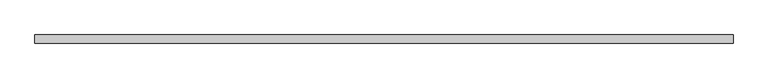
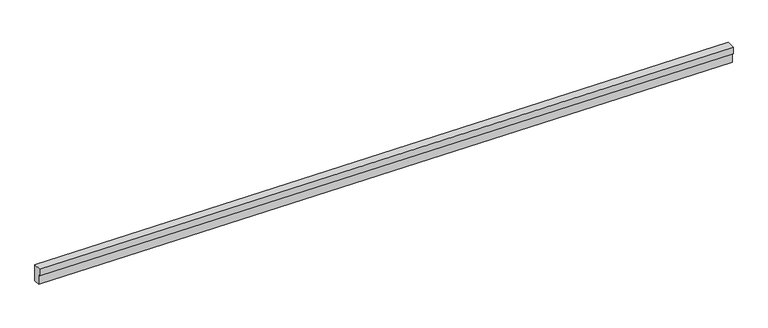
"""IFC4 building model written with IfcOpenShell, lengths in millimetres: proxy geometry, contre-corniche aval : contre-corniche."""

from ifc_helpers import new_model, si_unit, origin, place, context, project, spatial, faceted_brep, source, transform, mapped, element, save


def generic_models_ee808e85(model_context):
    return source(origin(), model_context, "Body", "Brep", [
        faceted_brep([(-6850.0, 2900.0, 5213.5), (-6850.0, 2900.0, 4873.5), (-6850.0, 2770.0, 4876.75), (-6850.0, 2770.0, 5104.5), (-6850.0, 2740.0, 5074.5), (-6850.0, 2740.0, 5207.5), (6850.0, 2900.0, 5060.5), (6850.0, 2740.0, 5054.5), (6850.0, 2740.0, 4921.5), (6850.0, 2770.0, 4951.5), (6850.0, 2770.0, 4723.75), (6850.0, 2900.0, 4720.5)], [[[0, 1, 2, 3, 4, 5]], [[6, 7, 8, 9, 10, 11]], [[6, 11, 1, 0]], [[11, 10, 2, 1]], [[10, 9, 3, 2]], [[9, 8, 4, 3]], [[8, 7, 5, 4]], [[7, 6, 0, 5]]]),
    ])


if __name__ == "__main__":
    model = new_model("IFC4")
    model_context = context("Model", 3, world=origin())
    ifc_project = project(units=[si_unit("LENGTHUNIT", "METRE", prefix="MILLI")], contexts=[model_context])
    site = spatial("IfcSite", under=ifc_project)
    building = spatial("IfcBuilding", under=site)
    placement = place(None, origin())
    generic_models_shape = generic_models_ee808e85(model_context)
    element("IfcBuildingElementProxy", 1, Name="contre-corniche aval : contre-corniche", ObjectType="contre-corniche aval : contre-corniche", at=placement, inside=building, context=model_context, shape_type="MappedRepresentation", body=[
        mapped(generic_models_shape, transform((0.0, 0.0, 0.0), x_axis=(1.0, 0.0, 0.0), y_axis=(0.0, 1.0, 0.0), z_axis=(0.0, 0.0, 1.0))),
    ])
    save(model, "model.ifc")
